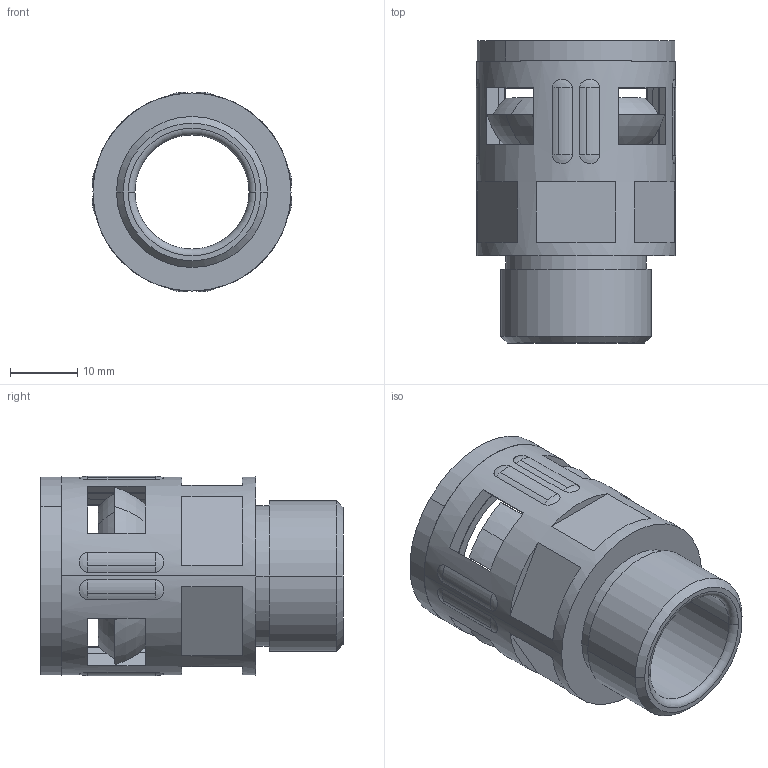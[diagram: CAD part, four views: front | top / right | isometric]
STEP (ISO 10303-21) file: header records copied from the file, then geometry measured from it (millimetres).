
FILE_DESCRIPTION (( 'STEP AP203' ), '1' );
FILE_NAME ('WQG-P16-AD21.2.STEP', '2020-03-12T06:44:16', ( '' ), ( '' ), 'SwSTEP 2.0', 'SolidWorks 2016', '' );
FILE_SCHEMA (( 'CONFIG_CONTROL_DESIGN' ));
Length unit declared in the file: millimetre
Products named in the file (4): NSK-AD21.2; GFD-AD21.2; WQG-P16-AD21.2; WQG-P16-AD21.2-01
Assembly tree (3 placements, depth 2):
  WQG-P16-AD21.2
    WQG-P16-AD21.2-01
    GFD-AD21.2
    NSK-AD21.2
Bounding box: 29.69 x 45 x 29.69 mm (x, y, z)
Volume: 11063 mm3; surface area: 15176.8 mm2
Topology: 6 solids, 7 shells, 286 faces, 708 edges, 432 vertices
Faces by surface type: plane 103, cone 79, cylinder 50, torus 38, sphere 16
Entity records: 9132 total; most frequent: CARTESIAN_POINT 1920, DIRECTION 1542, ORIENTED_EDGE 1352, EDGE_CURVE 676, AXIS2_PLACEMENT_3D 622, VERTEX_POINT 416, CIRCLE 330, EDGE_LOOP 322
